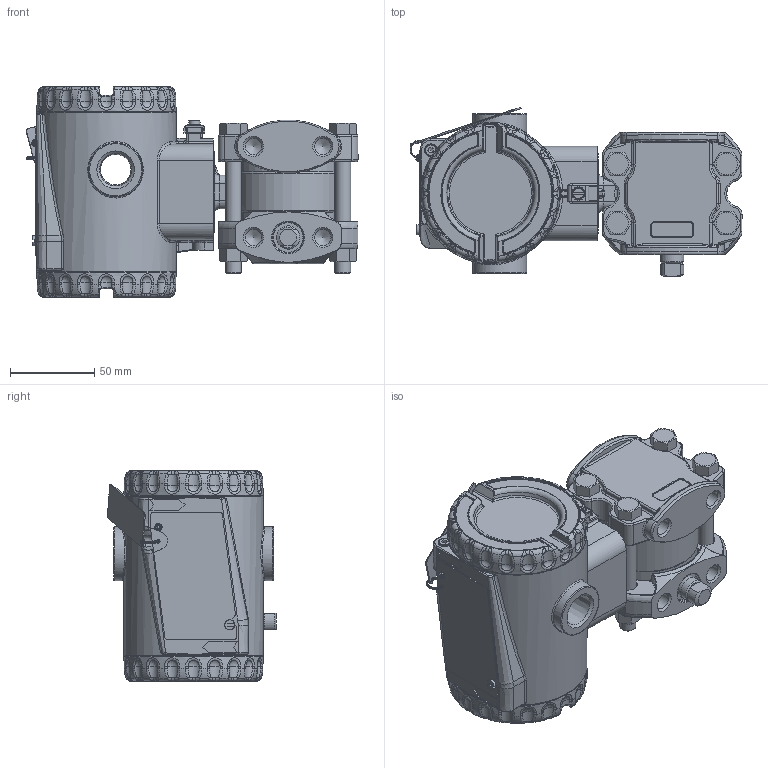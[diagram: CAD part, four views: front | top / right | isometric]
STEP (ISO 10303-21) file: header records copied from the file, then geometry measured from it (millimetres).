
FILE_DESCRIPTION(/* description */ (''),/* implementation_level */ '2;1');
FILE_NAME(/* name */ 'F:\Area\Desenvolvimento_2\Projects\Sensor\projetos\LD400-3d\dimensionais 3D clientes\LD400M0-3 1-4NPT Monel sem purga.stp',/* time_stamp */ '2023-02-02T13:30:01-03:00',/* author */ ('inventor02'),/* organization */ (''),/* preprocessor_version */ 'ST-DEVELOPER v17',/* originating_system */ 'Autodesk Inventor 2019',/* authorisation */ '');
FILE_SCHEMA (('CONFIG_CONTROL_DESIGN'));
Products named in the file (29): LD400M0-3 1-4NPT Monel sem purga; Carcaça 400 com tampas e plaqueta sem letras; 101-D-0845-05 carcaça LD400 sem letras; 101-B-3614-03-tampa 400 sem letras; Tampa visor 400 montada sem letras; 101-B-3612-05 tampa visor 400 sem letras; 101-A-6107; oring 2034; 00034775-0; WHW_250; DIN 915 - M6 x 10; Chapa aterramento externo; 201-A-1771-02 inserto terra recartilhado; AS 1969 - ST4,2; ISO 1207 - M4 x 8; ANSI B18.3.1M - M4x0,7 x 8; Subconjunto plaqueta 400; plaqueta 400 em branco; Parafuso da Plaqueta; Rebite da Plaqueta; 096-A-0169-03; 101-A-0502-01; manometrico FX3 monel sem purga; involucro fx0-3 apos a usinagem final; 101-C-0040-05 monel barra 7-16; 096-C-0014-13 manom reforçado; bujao 1-4NPT; Paraf. 3-8 x 16 UNC; Porca 3-8 x 16 UNC
Assembly tree (35 placements, depth 4):
  LD400M0-3 1-4NPT Monel sem purga
    Carcaça 400 com tampas e plaqueta sem letras
      101-D-0845-05 carcaça LD400 sem letras
      101-B-3614-03-tampa 400 sem letras
      Tampa visor 400 montada sem letras
        101-B-3612-05 tampa visor 400 sem letras
        101-A-6107
        oring 2034
        00034775-0
        WHW_250
      DIN 915 - M6 x 10
      Chapa aterramento externo
      201-A-1771-02 inserto terra recartilhado
      AS 1969 - ST4,2
      ISO 1207 - M4 x 8
      ANSI B18.3.1M - M4x0,7 x 8  x2
      Subconjunto plaqueta 400
        plaqueta 400 em branco
        Parafuso da Plaqueta
        Rebite da Plaqueta
        096-A-0169-03
        101-A-0502-01
    manometrico FX3 monel sem purga
      involucro fx0-3 apos a usinagem final
      101-C-0040-05 monel barra 7-16
      096-C-0014-13 manom reforçado
      bujao 1-4NPT
      Paraf. 3-8 x 16 UNC  x4
      Porca 3-8 x 16 UNC  x4
Bounding box: 197.27 x 100.39 x 125 mm (x, y, z)
Volume: 637068.8 mm3; surface area: 233897.5 mm2
Topology: 31 solids, 31 shells, 2333 faces, 5722 edges, 3443 vertices
Faces by surface type: plane 614, cylinder 547, bspline 525, torus 396, cone 194, sphere 57
Full cylindrical faces by diameter (mm): 2 x2, 2.1 x1, 2.2 x1, 2.459 x3, 2.7 x1, 3 x1, 3.242 x3, 3.571 x1, 4 x4, 4.3 x2, 4.4 x1, 4.917 x1, 5 x2, 6 x2, 6.1 x2, 6.2 x1, 7 x2, 7.6 x2, 7.798 x4, 9.525 x4, 9.728 x8, 10.5 x8, 10.719 x2, 12 x1, 13.8 x1, 14 x1, 18.3 x2, 18.5 x2, 26 x1, 32 x2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
Entity records: 86327 total; most frequent: CARTESIAN_POINT 34394, ORIENTED_EDGE 10914, DIRECTION 10452, EDGE_CURVE 5457, AXIS2_PLACEMENT_3D 4426, VERTEX_POINT 3309, CIRCLE 2562, EDGE_LOOP 2342
